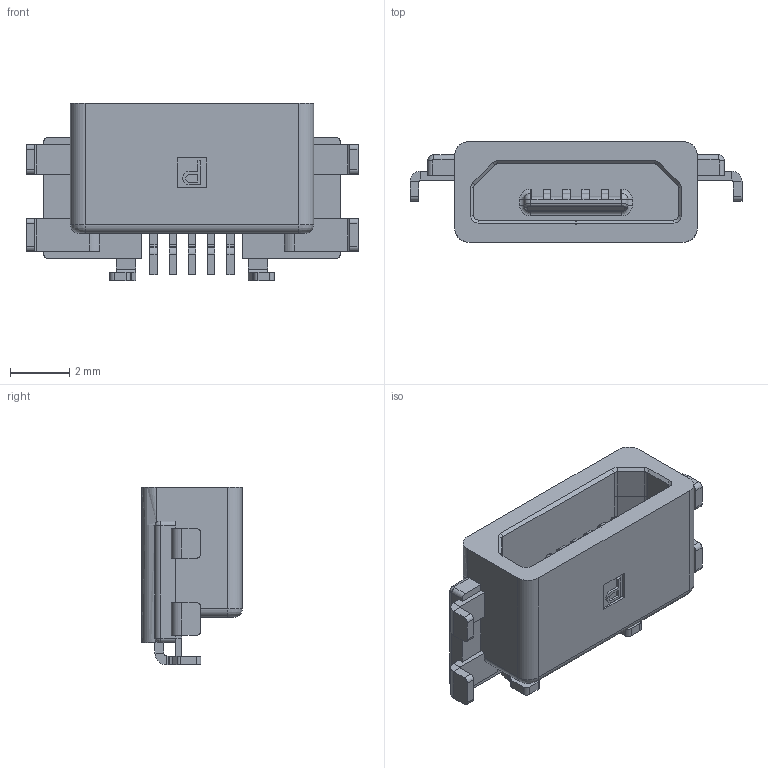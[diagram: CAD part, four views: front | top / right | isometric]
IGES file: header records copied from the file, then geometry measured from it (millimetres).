
Start section:  PTC IGES file: L1520_IGS.igs
Global section: file name: L1520_IGS.igs; native system: Pro/ENGINEER by Parametric Technology Corporation; preprocessor: 2002180; author: Administrator; organization: Unknown; date: 160826.120937; units: millimetre
Bounding box: 11.2 x 3.4 x 6 mm (x, y, z)
Surface area: 293.2 mm2 (no closed solid volume)
Topology: 0 solids, 0 shells, 490 faces, 3613 edges, 4834 vertices
Faces by surface type: bspline 309, revolution 181
